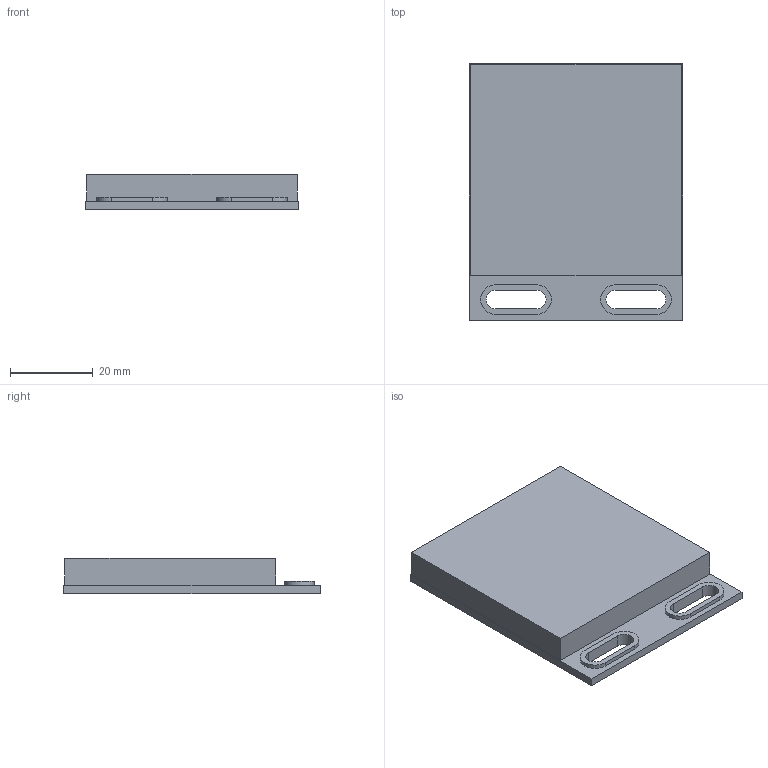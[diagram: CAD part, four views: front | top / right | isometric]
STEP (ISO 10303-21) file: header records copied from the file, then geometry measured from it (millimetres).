
FILE_DESCRIPTION(/* description */ (''),/* implementation_level */ '2;1');
FILE_NAME(/* name */ 'F:\HUAYIFENG\01)HUAYIFENG_宣传文件\01)HUAYIFENG_宣传文件_产品资料整合\03)产品3D文档\02)产品3D_2019_STP\02)产品3D_光电系列_K12_2019\02)LS200系列_3D\反射板_3D.stp',/* time_stamp */ '2019-04-03T15:10:37+08:00',/* author */ ('fengjiarun'),/* organization */ (''),/* preprocessor_version */ 'ST-DEVELOPER v16.5',/* originating_system */ 'Autodesk Inventor 2017',/* authorisation */ '');
FILE_SCHEMA (('AUTOMOTIVE_DESIGN { 1 0 10303 214 3 1 1 }'));
Length unit declared in the file: millimetre
Products named in the file (1): 反射板_3D
Bounding box: 51.5 x 62 x 8.5 mm (x, y, z)
Volume: 23148.3 mm3; surface area: 8211.8 mm2
Topology: 1 solids, 1 shells, 29 faces, 72 edges, 48 vertices
Faces by surface type: plane 21, cylinder 8
Entity records: 894 total; most frequent: CARTESIAN_POINT 150, DIRECTION 148, ORIENTED_EDGE 144, EDGE_CURVE 72, LINE 56, VECTOR 56, VERTEX_POINT 48, AXIS2_PLACEMENT_3D 46
